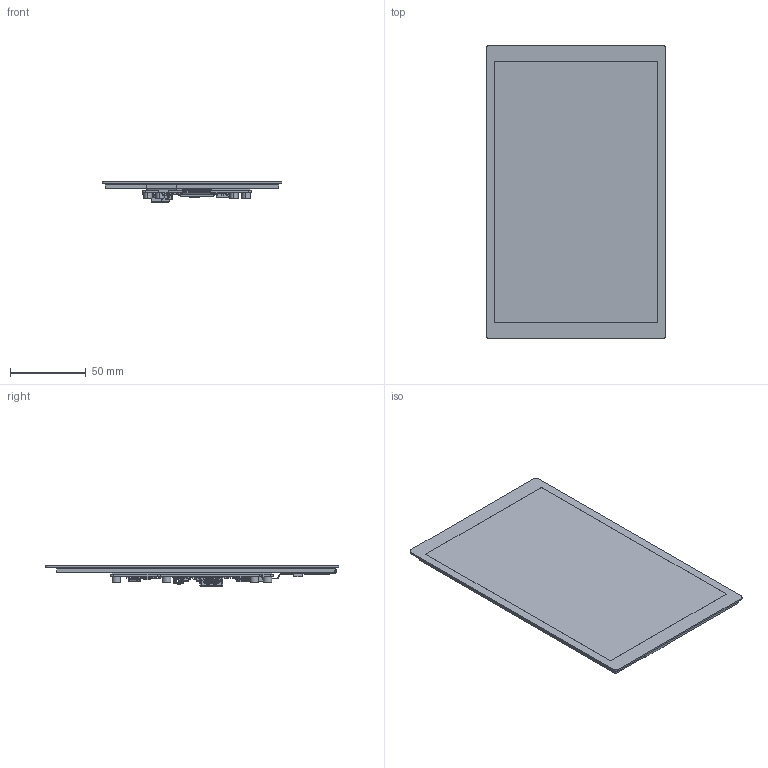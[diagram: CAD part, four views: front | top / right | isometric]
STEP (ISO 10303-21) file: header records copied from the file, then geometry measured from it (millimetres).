
FILE_DESCRIPTION((''),'2;1');
FILE_NAME('8DP-CAPLCD_ASM','2024-04-08T15:29:48',('xiaojisheng'),(''),'CREO PARAMETRIC BY PTC INC, 2021063','CREO PARAMETRIC BY PTC INC, 2021063','');
FILE_SCHEMA(('CONFIG_CONTROL_DESIGN','SHAPE_APPEARANCE_LAYERS_GROUPS'));
Products named in the file (109): 8INCH-LHM0802852181BC_3; 8INCH-800X1280-TP_3; 8INCH-800H_1280V-0428_ASM_1_ASM; 093-104INCH_HDMI-PCBA-0609_8_1; 093-104INCH_HDMI-PCBA-0609_8_2; 093-104INCH_HDMI-PCBA-0609_8_3; 093-104INCH_HDMI-PCBA-0609_8_4; 093-104INCH_HDMI-PCBA-0609_8_5; 093-104INCH_HDMI-PCBA-0609_8_6; 093-104INCH_HDMI-PCBA-0609_8_7; 093-104INCH_HDMI-PCBA-0609_8_8; 093-104INCH_HDMI-PCBA-0609_8_9; 093-104INCH_HDMI-PCBA-0609_8_10; 093-104INCH_HDMI-PCBA-0609_8_11; 093-104INCH_HDMI-PCBA-0609_8_12; 093-104INCH_HDMI-PCBA-0609_8_13; 093-104INCH_HDMI-PCBA-0609_8_14; 093-104INCH_HDMI-PCBA-0609_8_15; 093-104INCH_HDMI-PCBA-0609_8_16; 093-104INCH_HDMI-PCBA-0609_8_17; 093-104INCH_HDMI-PCBA-0609_8_18; 093-104INCH_HDMI-PCBA-0609_8_19; 093-104INCH_HDMI-PCBA-0609_8_20; 093-104INCH_HDMI-PCBA-0609_8_21; 093-104INCH_HDMI-PCBA-0609_8_22; 093-104INCH_HDMI-PCBA-0609_8_23; 093-104INCH_HDMI-PCBA-0609_8_24; 093-104INCH_HDMI-PCBA-0609_8_25; 093-104INCH_HDMI-PCBA-0609_8_26; 093-104INCH_HDMI-PCBA-0609_8_27; 093-104INCH_HDMI-PCBA-0609_8_28; 093-104INCH_HDMI-PCBA-0609_8_29; 093-104INCH_HDMI-PCBA-0609_8_30; 093-104INCH_HDMI-PCBA-0609_8_31; 093-104INCH_HDMI-PCBA-0609_8_32; 093-104INCH_HDMI-PCBA-0609_8_33; 093-104INCH_HDMI-PCBA-0609_8_34; 093-104INCH_HDMI-PCBA-0609_8_35; 093-104INCH_HDMI-PCBA-0609_8_36; 093-104INCH_HDMI-PCBA-0609_8_37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
Assembly tree (108 placements, depth 4):
  8DP-CAPLCD_ASM
    8-101INCH-HDMI-PCBA-20220613_AS_ASM
      8INCH-800H_1280V-0428_ASM_1_ASM
        8INCH-LHM0802852181BC_3
        8INCH-800X1280-TP_3
      093-104INCH_HDMI-PCBA-0609_8_ASM
        093-104INCH_HDMI-PCBA-0609_8_1
        093-104INCH_HDMI-PCBA-0609_8_2
        093-104INCH_HDMI-PCBA-0609_8_3
        093-104INCH_HDMI-PCBA-0609_8_4
        093-104INCH_HDMI-PCBA-0609_8_5
        093-104INCH_HDMI-PCBA-0609_8_6
        093-104INCH_HDMI-PCBA-0609_8_7
        093-104INCH_HDMI-PCBA-0609_8_8
        093-104INCH_HDMI-PCBA-0609_8_9
        093-104INCH_HDMI-PCBA-0609_8_10
        093-104INCH_HDMI-PCBA-0609_8_11
        093-104INCH_HDMI-PCBA-0609_8_12
        093-104INCH_HDMI-PCBA-0609_8_13
        093-104INCH_HDMI-PCBA-0609_8_14
        093-104INCH_HDMI-PCBA-0609_8_15
        093-104INCH_HDMI-PCBA-0609_8_16
        093-104INCH_HDMI-PCBA-0609_8_17
        093-104INCH_HDMI-PCBA-0609_8_18
        093-104INCH_HDMI-PCBA-0609_8_19
        093-104INCH_HDMI-PCBA-0609_8_20
        093-104INCH_HDMI-PCBA-0609_8_21
        093-104INCH_HDMI-PCBA-0609_8_22
        093-104INCH_HDMI-PCBA-0609_8_23
        093-104INCH_HDMI-PCBA-0609_8_24
        093-104INCH_HDMI-PCBA-0609_8_25
        093-104INCH_HDMI-PCBA-0609_8_26
        093-104INCH_HDMI-PCBA-0609_8_27
        093-104INCH_HDMI-PCBA-0609_8_28
        093-104INCH_HDMI-PCBA-0609_8_29
        093-104INCH_HDMI-PCBA-0609_8_30
        093-104INCH_HDMI-PCBA-0609_8_31
        093-104INCH_HDMI-PCBA-0609_8_32
        093-104INCH_HDMI-PCBA-0609_8_33
        093-104INCH_HDMI-PCBA-0609_8_34
        093-104INCH_HDMI-PCBA-0609_8_35
        093-104INCH_HDMI-PCBA-0609_8_36
        093-104INCH_HDMI-PCBA-0609_8_37
        093-104INCH_HDMI-PCBA-0609_8_38
        093-104INCH_HDMI-PCBA-0609_8_39
        093-104INCH_HDMI-PCBA-0609_8_40
        093-104INCH_HDMI-PCBA-0609_8_41
        093-104INCH_HDMI-PCBA-0609_8_42
        093-104INCH_HDMI-PCBA-0609_8_43
        093-104INCH_HDMI-PCBA-0609_8_44
        093-104INCH_HDMI-PCBA-0609_8_45
        093-104INCH_HDMI-PCBA-0609_8_46
        093-104INCH_HDMI-PCBA-0609_8_47
        093-104INCH_HDMI-PCBA-0609_8_48
        093-104INCH_HDMI-PCBA-0609_8_49
        093-104INCH_HDMI-PCBA-0609_8_50
        093-104INCH_HDMI-PCBA-0609_8_51
        093-104INCH_HDMI-PCBA-0609_8_52
        093-104INCH_HDMI-PCBA-0609_8_53
        093-104INCH_HDMI-PCBA-0609_8_54
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Bounding box: 119 x 194 x 13.66 mm (x, y, z)
Volume: 110857 mm3; surface area: 159589.8 mm2
Topology: 101 solids, 161 shells, 7778 faces, 22090 edges, 14736 vertices
Faces by surface type: plane 5567, cylinder 2067, extrusion 51, torus 44, sphere 21, cone 20, bspline 8
Entity records: 304114 total; most frequent: CARTESIAN_POINT 50726, ORIENTED_EDGE 43656, DIRECTION 41642, EDGE_CURVE 22068, VECTOR 17188, LINE 17137, VERTEX_POINT 14736, AXIS2_PLACEMENT_3D 12227
